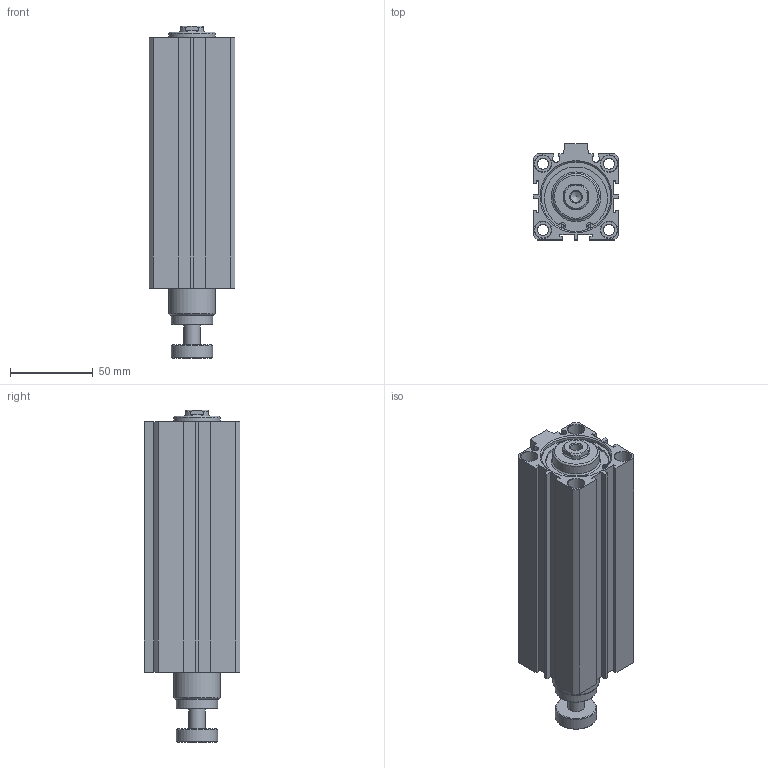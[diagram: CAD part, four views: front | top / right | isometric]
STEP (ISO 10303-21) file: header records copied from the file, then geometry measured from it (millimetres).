
FILE_DESCRIPTION((''),'2;1');
FILE_NAME('I:\3D電子目錄\氣缸\JDAR\JDAR-S\JDAR40-S\JDAR40x115-S.stp','2007-05-05T09:39:25',('662F206'),(''),'Autodesk Inventor 11','Autodesk Inventor 11','');
FILE_SCHEMA(('AUTOMOTIVE_DESIGN { 1 0 10303 214 1 1 1 1 }'));
Length unit declared in the file: millimetre
Products named in the file (3): JDAR40-S; JDAR40; R 形環 42
Assembly tree (3 placements, depth 2):
  JDAR40-S
    JDAR40
    R 形環 42  x2
Bounding box: 52 x 58 x 200.8 mm (x, y, z)
Volume: 380423.4 mm3; surface area: 72164 mm2
Topology: 3 solids, 3 shells, 172 faces, 405 edges, 263 vertices
Faces by surface type: plane 92, cylinder 51, cone 23, bspline 4, torus 2
Full cylindrical faces by diameter (mm): 1.9 x4, 2.2 x2, 6.8 x4, 10 x9, 25 x2, 28 x2, 42 x4, 44.5 x2
Entity records: 4475 total; most frequent: CARTESIAN_POINT 858, DIRECTION 758, ORIENTED_EDGE 634, EDGE_CURVE 317, AXIS2_PLACEMENT_3D 287, EDGE_LOOP 248, VERTEX_POINT 237, VECTOR 184
